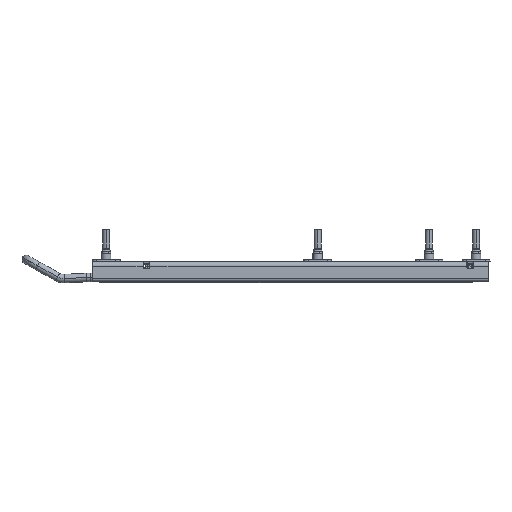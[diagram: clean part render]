
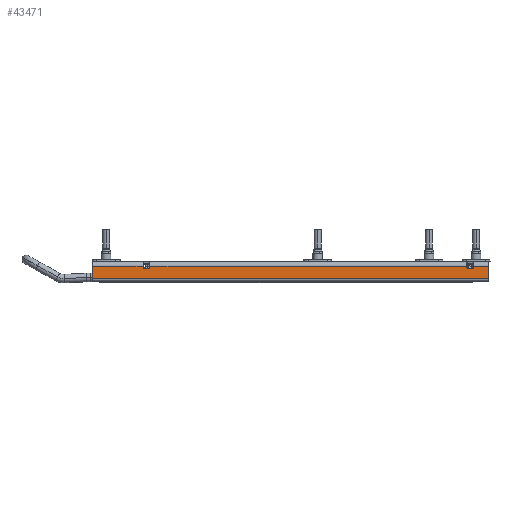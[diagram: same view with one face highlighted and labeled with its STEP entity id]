
A CAD part, front view. The second image highlights one B-rep face of the part: STEP entity #43471.
In plain terms, the highlighted planar face has unit normal (0, -1, 0).
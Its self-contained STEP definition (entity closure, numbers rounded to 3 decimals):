
#43146=AXIS2_PLACEMENT_3D('Circle Axis2P3D',#43144,#43145,$) ;
#43331=AXIS2_PLACEMENT_3D('Circle Axis2P3D',#43329,#43330,$) ;
#43344=AXIS2_PLACEMENT_3D('Plane Axis2P3D',#43341,#43342,#43343) ;
#43013=CARTESIAN_POINT('Vertex',(1480.315,-719.864,169.)) ;
#43083=CARTESIAN_POINT('Vertex',(1474.815,-719.863,169.)) ;
#43125=CARTESIAN_POINT('Line Origine',(1137.565,-719.823,169.)) ;
#43144=CARTESIAN_POINT('Axis2P3D Location',(1480.315,-719.864,170.25)) ;
#43148=CARTESIAN_POINT('Vertex',(1481.565,-719.864,170.25)) ;
#43326=CARTESIAN_POINT('Vertex',(1473.565,-719.863,170.25)) ;
#43329=CARTESIAN_POINT('Axis2P3D Location',(1474.815,-719.863,170.25)) ;
#43341=CARTESIAN_POINT('Axis2P3D Location',(1066.265,-719.815,172.)) ;
#43346=CARTESIAN_POINT('Line Origine',(1473.565,-719.863,171.125)) ;
#43350=CARTESIAN_POINT('Vertex',(1473.565,-719.863,172.)) ;
#43353=CARTESIAN_POINT('Line Origine',(1288.565,-719.841,172.)) ;
#43357=CARTESIAN_POINT('Vertex',(1103.565,-719.819,172.)) ;
#43360=CARTESIAN_POINT('Line Origine',(1103.565,-719.819,171.125)) ;
#43364=CARTESIAN_POINT('Vertex',(1103.565,-719.819,170.25)) ;
#43368=CARTESIAN_POINT('Control Point',(1103.565,-719.819,170.25)) ;
#43369=CARTESIAN_POINT('Control Point',(1103.565,-719.819,170.086)) ;
#43370=CARTESIAN_POINT('Control Point',(1103.538,-719.819,169.922)) ;
#43371=CARTESIAN_POINT('Control Point',(1103.484,-719.819,169.763)) ;
#43372=CARTESIAN_POINT('Control Point',(1103.326,-719.819,169.47)) ;
#43373=CARTESIAN_POINT('Control Point',(1103.083,-719.819,169.243)) ;
#43374=CARTESIAN_POINT('Control Point',(1102.943,-719.819,169.15)) ;
#43375=CARTESIAN_POINT('Control Point',(1102.732,-719.819,169.056)) ;
#43376=CARTESIAN_POINT('Control Point',(1102.507,-719.819,169.013)) ;
#43377=CARTESIAN_POINT('Control Point',(1102.443,-719.819,169.004)) ;
#43378=CARTESIAN_POINT('Control Point',(1102.379,-719.819,169.)) ;
#43379=CARTESIAN_POINT('Control Point',(1102.315,-719.819,169.)) ;
#43380=CARTESIAN_POINT('Vertex',(1102.315,-719.819,169.)) ;
#43383=CARTESIAN_POINT('Line Origine',(1099.565,-719.819,169.)) ;
#43387=CARTESIAN_POINT('Vertex',(1096.815,-719.819,169.)) ;
#43391=CARTESIAN_POINT('Control Point',(1096.815,-719.819,169.)) ;
#43392=CARTESIAN_POINT('Control Point',(1096.651,-719.819,169.)) ;
#43393=CARTESIAN_POINT('Control Point',(1096.486,-719.819,169.027)) ;
#43394=CARTESIAN_POINT('Control Point',(1096.328,-719.819,169.081)) ;
#43395=CARTESIAN_POINT('Control Point',(1096.035,-719.818,169.239)) ;
#43396=CARTESIAN_POINT('Control Point',(1095.808,-719.818,169.483)) ;
#43397=CARTESIAN_POINT('Control Point',(1095.715,-719.818,169.622)) ;
#43398=CARTESIAN_POINT('Control Point',(1095.621,-719.818,169.834)) ;
#43399=CARTESIAN_POINT('Control Point',(1095.577,-719.818,170.058)) ;
#43400=CARTESIAN_POINT('Control Point',(1095.569,-719.818,170.122)) ;
#43401=CARTESIAN_POINT('Control Point',(1095.565,-719.818,170.186)) ;
#43402=CARTESIAN_POINT('Control Point',(1095.565,-719.818,170.25)) ;
#43403=CARTESIAN_POINT('Vertex',(1095.565,-719.818,170.25)) ;
#43406=CARTESIAN_POINT('Line Origine',(1095.565,-719.818,171.125)) ;
#43410=CARTESIAN_POINT('Vertex',(1095.565,-719.818,172.)) ;
#43413=CARTESIAN_POINT('Line Origine',(1065.915,-719.815,172.)) ;
#43417=CARTESIAN_POINT('Vertex',(1036.265,-719.811,172.)) ;
#43420=CARTESIAN_POINT('Line Origine',(1036.265,-719.811,164.6)) ;
#43424=CARTESIAN_POINT('Vertex',(1036.265,-719.811,157.2)) ;
#43427=CARTESIAN_POINT('Line Origine',(1267.765,-719.839,157.2)) ;
#43431=CARTESIAN_POINT('Vertex',(1499.265,-719.866,157.2)) ;
#43434=CARTESIAN_POINT('Line Origine',(1499.265,-719.866,164.6)) ;
#43438=CARTESIAN_POINT('Vertex',(1499.265,-719.866,172.)) ;
#43441=CARTESIAN_POINT('Line Origine',(1490.415,-719.865,172.)) ;
#43445=CARTESIAN_POINT('Vertex',(1481.565,-719.864,172.)) ;
#43448=CARTESIAN_POINT('Line Origine',(1481.565,-719.864,171.125)) ;
#43126=DIRECTION('Vector Direction',(1.,0.,0.)) ;
#43145=DIRECTION('Axis2P3D Direction',(0.,1.,0.)) ;
#43330=DIRECTION('Axis2P3D Direction',(0.,1.,0.)) ;
#43342=DIRECTION('Axis2P3D Direction',(0.,-1.,0.)) ;
#43343=DIRECTION('Axis2P3D XDirection',(0.,0.,-1.)) ;
#43347=DIRECTION('Vector Direction',(0.,0.,-1.)) ;
#43354=DIRECTION('Vector Direction',(1.,0.,0.)) ;
#43361=DIRECTION('Vector Direction',(0.,0.,-1.)) ;
#43384=DIRECTION('Vector Direction',(1.,0.,0.)) ;
#43407=DIRECTION('Vector Direction',(0.,0.,-1.)) ;
#43414=DIRECTION('Vector Direction',(1.,0.,0.)) ;
#43421=DIRECTION('Vector Direction',(0.,0.,-1.)) ;
#43428=DIRECTION('Vector Direction',(1.,0.,0.)) ;
#43435=DIRECTION('Vector Direction',(0.,0.,-1.)) ;
#43442=DIRECTION('Vector Direction',(1.,0.,0.)) ;
#43449=DIRECTION('Vector Direction',(0.,0.,-1.)) ;
#43127=VECTOR('Line Direction',#43126,1.) ;
#43348=VECTOR('Line Direction',#43347,1.) ;
#43355=VECTOR('Line Direction',#43354,1.) ;
#43362=VECTOR('Line Direction',#43361,1.) ;
#43385=VECTOR('Line Direction',#43384,1.) ;
#43408=VECTOR('Line Direction',#43407,1.) ;
#43415=VECTOR('Line Direction',#43414,1.) ;
#43422=VECTOR('Line Direction',#43421,1.) ;
#43429=VECTOR('Line Direction',#43428,1.) ;
#43436=VECTOR('Line Direction',#43435,1.) ;
#43443=VECTOR('Line Direction',#43442,1.) ;
#43450=VECTOR('Line Direction',#43449,1.) ;
#43454=ORIENTED_EDGE('',*,*,#43150,.T.) ;
#43455=ORIENTED_EDGE('',*,*,#43129,.T.) ;
#43456=ORIENTED_EDGE('',*,*,#43333,.T.) ;
#43457=ORIENTED_EDGE('',*,*,#43352,.T.) ;
#43458=ORIENTED_EDGE('',*,*,#43359,.F.) ;
#43459=ORIENTED_EDGE('',*,*,#43366,.F.) ;
#43460=ORIENTED_EDGE('',*,*,#43382,.T.) ;
#43461=ORIENTED_EDGE('',*,*,#43389,.T.) ;
#43462=ORIENTED_EDGE('',*,*,#43405,.T.) ;
#43463=ORIENTED_EDGE('',*,*,#43412,.T.) ;
#43464=ORIENTED_EDGE('',*,*,#43419,.F.) ;
#43465=ORIENTED_EDGE('',*,*,#43426,.T.) ;
#43466=ORIENTED_EDGE('',*,*,#43433,.T.) ;
#43467=ORIENTED_EDGE('',*,*,#43440,.F.) ;
#43468=ORIENTED_EDGE('',*,*,#43447,.F.) ;
#43469=ORIENTED_EDGE('',*,*,#43452,.F.) ;
#43471=ADVANCED_FACE('\X2\51E04F554F53\X0\.62',(#43470),#43345,.T.) ;
#43367=B_SPLINE_CURVE_WITH_KNOTS('',5,(#43368,#43369,#43370,#43371,#43372,#43373,#43374,#43375,#43376,#43377,#43378,#43379),.UNSPECIFIED.,.F.,.U.,(6,3,3,6),(0.,1.166,2.333,2.787),.UNSPECIFIED.) ;
#43390=B_SPLINE_CURVE_WITH_KNOTS('',5,(#43391,#43392,#43393,#43394,#43395,#43396,#43397,#43398,#43399,#43400,#43401,#43402),.UNSPECIFIED.,.F.,.U.,(6,3,3,6),(0.,1.166,2.333,2.787),.UNSPECIFIED.) ;
#43147=CIRCLE('generated circle',#43146,1.25) ;
#43332=CIRCLE('generated circle',#43331,1.25) ;
#43129=EDGE_CURVE('',#43014,#43084,#43128,.F.) ;
#43150=EDGE_CURVE('',#43149,#43014,#43147,.T.) ;
#43333=EDGE_CURVE('',#43084,#43327,#43332,.T.) ;
#43352=EDGE_CURVE('',#43327,#43351,#43349,.F.) ;
#43359=EDGE_CURVE('',#43358,#43351,#43356,.T.) ;
#43366=EDGE_CURVE('',#43365,#43358,#43363,.F.) ;
#43382=EDGE_CURVE('',#43365,#43381,#43367,.T.) ;
#43389=EDGE_CURVE('',#43381,#43388,#43386,.F.) ;
#43405=EDGE_CURVE('',#43388,#43404,#43390,.T.) ;
#43412=EDGE_CURVE('',#43404,#43411,#43409,.F.) ;
#43419=EDGE_CURVE('',#43418,#43411,#43416,.T.) ;
#43426=EDGE_CURVE('',#43418,#43425,#43423,.T.) ;
#43433=EDGE_CURVE('',#43425,#43432,#43430,.T.) ;
#43440=EDGE_CURVE('',#43439,#43432,#43437,.T.) ;
#43447=EDGE_CURVE('',#43446,#43439,#43444,.T.) ;
#43452=EDGE_CURVE('',#43149,#43446,#43451,.F.) ;
#43453=EDGE_LOOP('',(#43454,#43455,#43456,#43457,#43458,#43459,#43460,#43461,#43462,#43463,#43464,#43465,#43466,#43467,#43468,#43469)) ;
#43470=FACE_OUTER_BOUND('',#43453,.T.) ;
#43128=LINE('Line',#43125,#43127) ;
#43349=LINE('Line',#43346,#43348) ;
#43356=LINE('Line',#43353,#43355) ;
#43363=LINE('Line',#43360,#43362) ;
#43386=LINE('Line',#43383,#43385) ;
#43409=LINE('Line',#43406,#43408) ;
#43416=LINE('Line',#43413,#43415) ;
#43423=LINE('Line',#43420,#43422) ;
#43430=LINE('Line',#43427,#43429) ;
#43437=LINE('Line',#43434,#43436) ;
#43444=LINE('Line',#43441,#43443) ;
#43451=LINE('Line',#43448,#43450) ;
#43345=PLANE('Plane',#43344) ;
#43014=VERTEX_POINT('',#43013) ;
#43084=VERTEX_POINT('',#43083) ;
#43149=VERTEX_POINT('',#43148) ;
#43327=VERTEX_POINT('',#43326) ;
#43351=VERTEX_POINT('',#43350) ;
#43358=VERTEX_POINT('',#43357) ;
#43365=VERTEX_POINT('',#43364) ;
#43381=VERTEX_POINT('',#43380) ;
#43388=VERTEX_POINT('',#43387) ;
#43404=VERTEX_POINT('',#43403) ;
#43411=VERTEX_POINT('',#43410) ;
#43418=VERTEX_POINT('',#43417) ;
#43425=VERTEX_POINT('',#43424) ;
#43432=VERTEX_POINT('',#43431) ;
#43439=VERTEX_POINT('',#43438) ;
#43446=VERTEX_POINT('',#43445) ;
